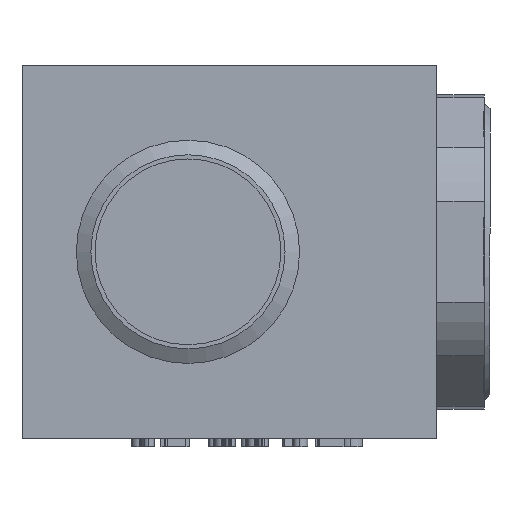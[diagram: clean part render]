
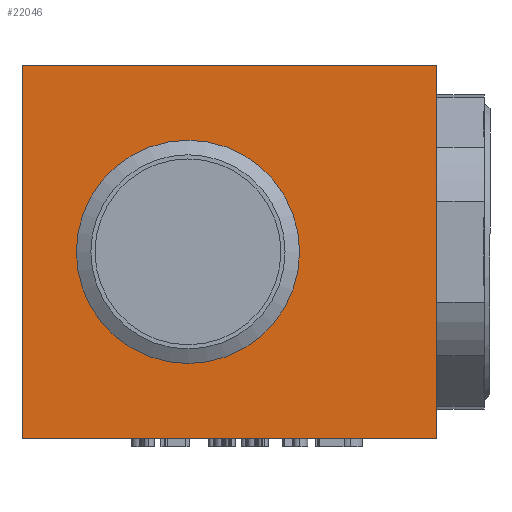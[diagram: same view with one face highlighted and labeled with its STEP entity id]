
A CAD part, left-side view. The second image highlights one B-rep face of the part: STEP entity #22046.
In plain terms, the highlighted planar face has unit normal (-1, 0, 0).
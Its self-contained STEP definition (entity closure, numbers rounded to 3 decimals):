
#63=CIRCLE('',#22771,13.45);
#225=FACE_BOUND('',#3110,.T.);
#1849=FACE_OUTER_BOUND('',#3109,.T.);
#3109=EDGE_LOOP('',(#20169,#20170,#20171,#20172));
#3110=EDGE_LOOP('',(#20173));
#6226=LINE('',#38313,#8453);
#6263=LINE('',#38490,#8490);
#6264=LINE('',#38492,#8491);
#6265=LINE('',#38493,#8492);
#8453=VECTOR('',#26262,50.);
#8490=VECTOR('',#26479,45.);
#8491=VECTOR('',#26480,50.);
#8492=VECTOR('',#26481,45.);
#10568=VERTEX_POINT('',#38306);
#10571=VERTEX_POINT('',#38311);
#10613=VERTEX_POINT('',#38465);
#10621=VERTEX_POINT('',#38489);
#10622=VERTEX_POINT('',#38491);
#13733=EDGE_CURVE('',#10568,#10571,#6226,.T.);
#13799=EDGE_CURVE('',#10613,#10613,#63,.T.);
#13807=EDGE_CURVE('',#10571,#10621,#6263,.T.);
#13808=EDGE_CURVE('',#10621,#10622,#6264,.T.);
#13809=EDGE_CURVE('',#10622,#10568,#6265,.T.);
#20169=ORIENTED_EDGE('',*,*,#13733,.T.);
#20170=ORIENTED_EDGE('',*,*,#13807,.T.);
#20171=ORIENTED_EDGE('',*,*,#13808,.T.);
#20172=ORIENTED_EDGE('',*,*,#13809,.T.);
#20173=ORIENTED_EDGE('',*,*,#13799,.F.);
#20882=PLANE('',#22786);
#22046=ADVANCED_FACE('',(#1849,#225),#20882,.T.);
#22771=AXIS2_PLACEMENT_3D('',#38466,#26447,#26448);
#22786=AXIS2_PLACEMENT_3D('',#38488,#26477,#26478);
#26262=DIRECTION('',(0.,-1.,0.));
#26447=DIRECTION('center_axis',(-1.,0.,0.));
#26448=DIRECTION('ref_axis',(0.,1.,0.));
#26477=DIRECTION('center_axis',(-1.,0.,0.));
#26478=DIRECTION('ref_axis',(0.,0.,1.));
#26479=DIRECTION('',(0.,0.,1.));
#26480=DIRECTION('',(0.,1.,0.));
#26481=DIRECTION('',(0.,0.,-1.));
#38306=CARTESIAN_POINT('',(-22.5,25.,-22.5));
#38311=CARTESIAN_POINT('',(-22.5,-25.,-22.5));
#38313=CARTESIAN_POINT('',(-22.5,-25.,-22.5));
#38465=CARTESIAN_POINT('',(-22.5,-8.45,0.));
#38466=CARTESIAN_POINT('Origin',(-22.5,5.,0.));
#38488=CARTESIAN_POINT('Origin',(-22.5,0.,0.));
#38489=CARTESIAN_POINT('',(-22.5,-25.,22.5));
#38490=CARTESIAN_POINT('',(-22.5,-25.,22.5));
#38491=CARTESIAN_POINT('',(-22.5,25.,22.5));
#38492=CARTESIAN_POINT('',(-22.5,25.,22.5));
#38493=CARTESIAN_POINT('',(-22.5,25.,-22.5));
